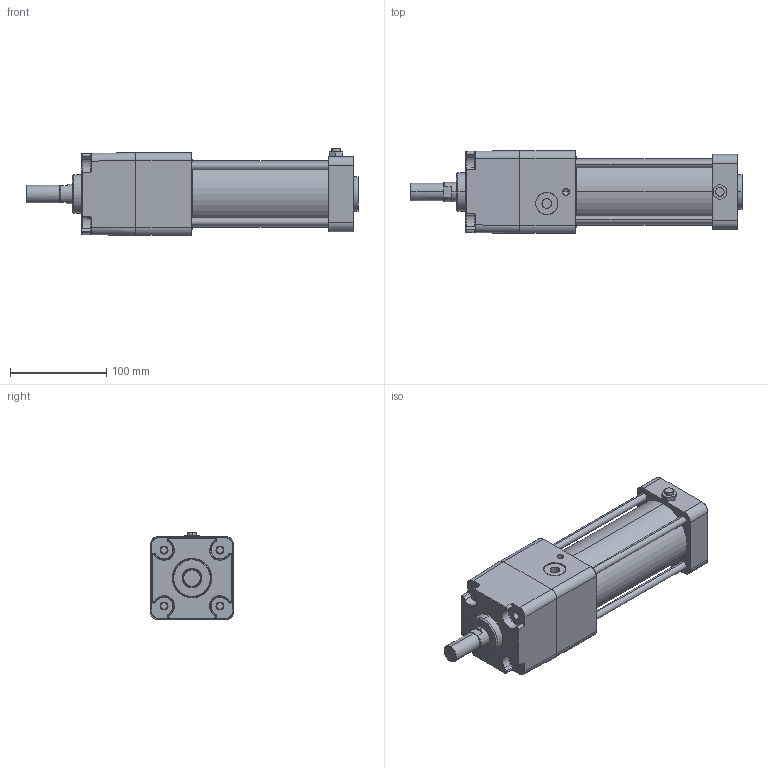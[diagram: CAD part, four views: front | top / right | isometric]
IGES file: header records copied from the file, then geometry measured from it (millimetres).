
Start section: SolidWorks IGES file using analytic representation for surfaces
Global section: file name: C:\Users\Toshiba\Desktop\KGSP2-63-100-N.IGS; native system: SolidWorks 2014; preprocessor: SolidWorks 2014; author: Toshiba; date: 160420.160017; units: millimetre
Bounding box: 344.6 x 86 x 90.3 mm (x, y, z)
Surface area: 180241.3 mm2 (no closed solid volume)
Topology: 0 solids, 0 shells, 336 faces, 5191 edges, 5181 vertices
Faces by surface type: revolution 174, bspline 162
